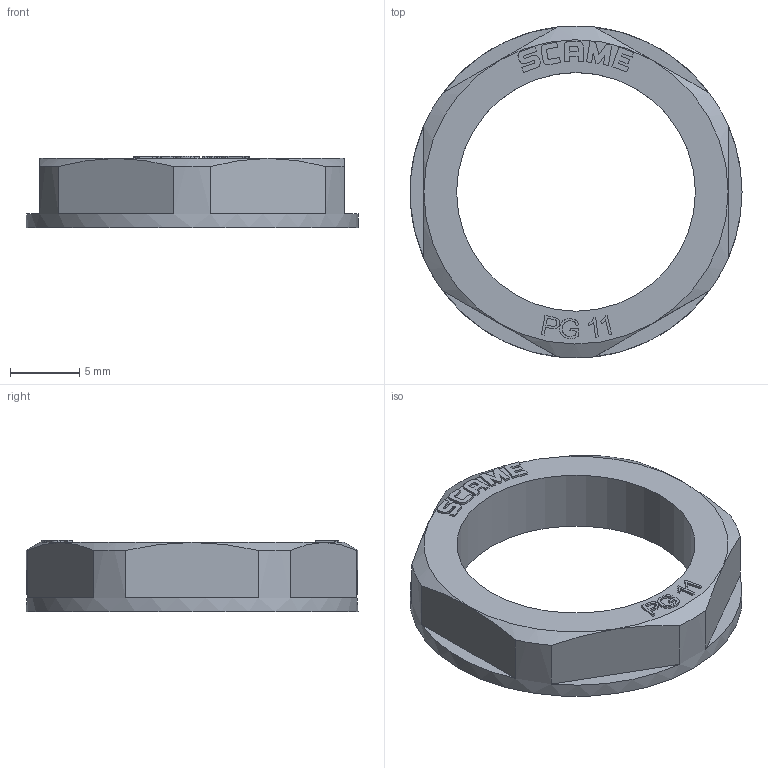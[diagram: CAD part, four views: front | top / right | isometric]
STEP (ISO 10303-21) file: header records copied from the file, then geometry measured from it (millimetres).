
FILE_DESCRIPTION(/* description */ (''),/* implementation_level */ '2;1');
FILE_NAME(/* name */ '4004551.stp',/* time_stamp */ '2019-03-01T15:15:58+01:00',/* author */ (''),/* organization */ (''),/* preprocessor_version */ 'ST-DEVELOPER v16.7',/* originating_system */ 'SIEMENS PLM Software NX 12.0',/* authorisation */ '');
FILE_SCHEMA (('AUTOMOTIVE_DESIGN { 1 0 10303 214 3 1 1 1 }'));
Length unit declared in the file: millimetre
Products named in the file (1): bsom23CC53FBpsiz
Bounding box: 24 x 24 x 5.15 mm (x, y, z)
Volume: 906.1 mm3; surface area: 1075.4 mm2
Topology: 1 solids, 1 shells, 151 faces, 412 edges, 275 vertices
Faces by surface type: plane 102, extrusion 28, cylinder 17, cone 4
Full cylindrical faces by diameter (mm): 17.26 x1, 19 x1, 24 x1
Entity records: 5038 total; most frequent: CARTESIAN_POINT 1396, ORIENTED_EDGE 814, DIRECTION 606, EDGE_CURVE 407, VERTEX_POINT 273, VECTOR 260, LINE 232, AXIS2_PLACEMENT_3D 173
